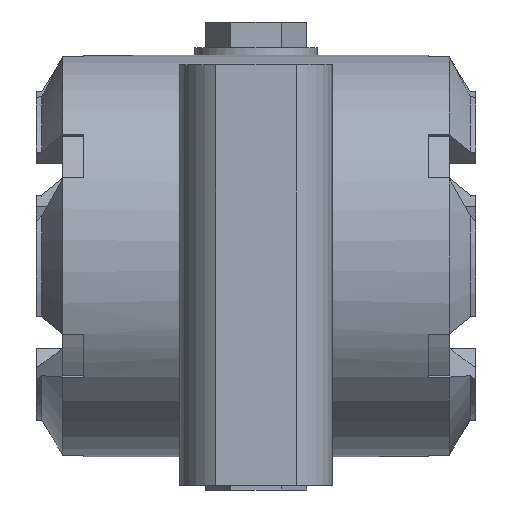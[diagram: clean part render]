
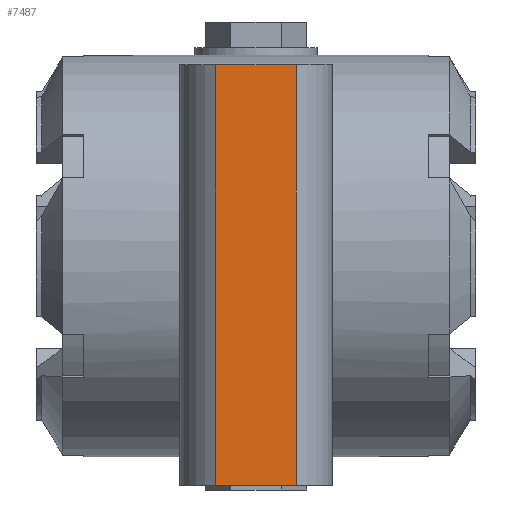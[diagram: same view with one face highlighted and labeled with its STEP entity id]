
A CAD part, front view. The second image highlights one B-rep face of the part: STEP entity #7487.
In plain terms, the highlighted planar face has unit normal (0, -1, 0).
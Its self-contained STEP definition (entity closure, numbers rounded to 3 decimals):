
#3037=LINE('',#44052,#5832);
#3039=LINE('',#44066,#5834);
#3041=LINE('',#44069,#5836);
#3043=LINE('',#44075,#5838);
#5832=VECTOR('',#31620,1.);
#5834=VECTOR('',#31632,1.);
#5836=VECTOR('',#31636,1.);
#5838=VECTOR('',#31642,1.);
#7487=ADVANCED_FACE('',(#9493),#8213,.F.);
#8213=PLANE('',#26913);
#9493=FACE_OUTER_BOUND('',#10965,.T.);
#10965=EDGE_LOOP('',(#18210,#18211,#18212,#18213));
#18210=ORIENTED_EDGE('',*,*,#24184,.T.);
#18211=ORIENTED_EDGE('',*,*,#24187,.T.);
#18212=ORIENTED_EDGE('',*,*,#24176,.T.);
#18213=ORIENTED_EDGE('',*,*,#24182,.F.);
#20580=VERTEX_POINT('',#44053);
#20581=VERTEX_POINT('',#44054);
#20585=VERTEX_POINT('',#44064);
#20587=VERTEX_POINT('',#44070);
#24176=EDGE_CURVE('',#20580,#20581,#3037,.T.);
#24182=EDGE_CURVE('',#20585,#20581,#3039,.T.);
#24184=EDGE_CURVE('',#20585,#20587,#3041,.T.);
#24187=EDGE_CURVE('',#20587,#20580,#3043,.T.);
#26913=AXIS2_PLACEMENT_3D('',#47603,#31704,#31705);
#31620=DIRECTION('',(0.,0.,-1.));
#31632=DIRECTION('',(-1.,0.,0.));
#31636=DIRECTION('',(0.,0.,1.));
#31642=DIRECTION('',(-1.,0.,0.));
#31704=DIRECTION('',(0.,1.,0.));
#31705=DIRECTION('',(-1.,0.,0.));
#44052=CARTESIAN_POINT('',(-10.536,-25.5,-65.5));
#44053=CARTESIAN_POINT('',(-10.536,-25.5,50.));
#44054=CARTESIAN_POINT('',(-10.536,-25.5,-60.));
#44064=CARTESIAN_POINT('',(10.536,-25.5,-60.));
#44066=CARTESIAN_POINT('',(0.,-25.5,-60.));
#44069=CARTESIAN_POINT('',(10.536,-25.5,-65.5));
#44070=CARTESIAN_POINT('',(10.536,-25.5,50.));
#44075=CARTESIAN_POINT('',(0.,-25.5,50.));
#47603=CARTESIAN_POINT('',(0.,-25.5,-5.));
